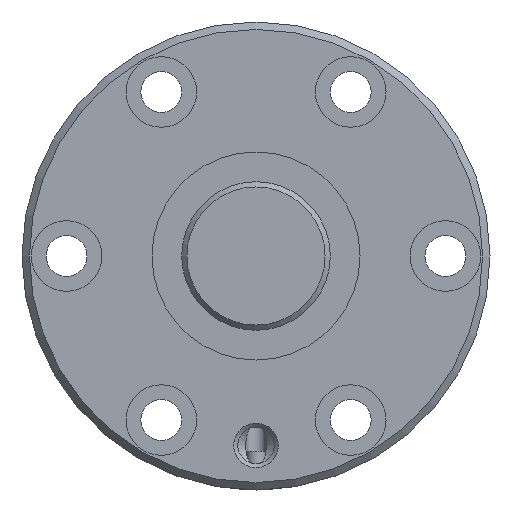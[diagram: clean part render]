
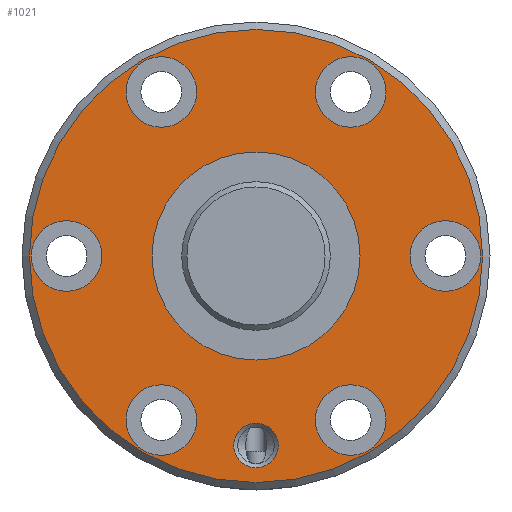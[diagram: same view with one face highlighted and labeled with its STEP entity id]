
A CAD part, left-side view. The second image highlights one B-rep face of the part: STEP entity #1021.
In plain terms, the highlighted planar face has unit normal (-1, 0, 0).
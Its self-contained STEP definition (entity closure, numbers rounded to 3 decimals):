
#162=ORIENTED_EDGE('',*,*,#385,.T.);
#163=ORIENTED_EDGE('',*,*,#386,.T.);
#164=ORIENTED_EDGE('',*,*,#387,.T.);
#165=ORIENTED_EDGE('',*,*,#388,.T.);
#166=ORIENTED_EDGE('',*,*,#389,.T.);
#167=ORIENTED_EDGE('',*,*,#390,.T.);
#168=ORIENTED_EDGE('',*,*,#391,.T.);
#169=ORIENTED_EDGE('',*,*,#392,.T.);
#170=ORIENTED_EDGE('',*,*,#384,.F.);
#384=EDGE_CURVE('',#499,#499,#593,.T.);
#385=EDGE_CURVE('',#500,#500,#594,.T.);
#386=EDGE_CURVE('',#501,#501,#595,.F.);
#387=EDGE_CURVE('',#502,#502,#596,.T.);
#388=EDGE_CURVE('',#503,#503,#597,.T.);
#389=EDGE_CURVE('',#504,#504,#598,.T.);
#390=EDGE_CURVE('',#505,#505,#599,.T.);
#391=EDGE_CURVE('',#506,#506,#600,.T.);
#392=EDGE_CURVE('',#507,#507,#601,.T.);
#499=VERTEX_POINT('',#1708);
#500=VERTEX_POINT('',#1711);
#501=VERTEX_POINT('',#1713);
#502=VERTEX_POINT('',#1715);
#503=VERTEX_POINT('',#1717);
#504=VERTEX_POINT('',#1719);
#505=VERTEX_POINT('',#1721);
#506=VERTEX_POINT('',#1723);
#507=VERTEX_POINT('',#1725);
#593=CIRCLE('',#1136,30.5);
#594=CIRCLE('',#1138,14.);
#595=CIRCLE('',#1139,4.75);
#596=CIRCLE('',#1140,3.);
#597=CIRCLE('',#1141,4.75);
#598=CIRCLE('',#1142,4.75);
#599=CIRCLE('',#1143,4.75);
#600=CIRCLE('',#1144,4.75);
#601=CIRCLE('',#1145,4.75);
#682=EDGE_LOOP('',(#162));
#683=EDGE_LOOP('',(#163));
#684=EDGE_LOOP('',(#164));
#685=EDGE_LOOP('',(#165));
#686=EDGE_LOOP('',(#166));
#687=EDGE_LOOP('',(#167));
#688=EDGE_LOOP('',(#168));
#689=EDGE_LOOP('',(#169));
#690=EDGE_LOOP('',(#170));
#842=FACE_BOUND('',#682,.T.);
#843=FACE_BOUND('',#683,.T.);
#844=FACE_BOUND('',#684,.T.);
#845=FACE_BOUND('',#685,.T.);
#846=FACE_BOUND('',#686,.T.);
#847=FACE_BOUND('',#687,.T.);
#848=FACE_BOUND('',#688,.T.);
#849=FACE_BOUND('',#689,.T.);
#850=FACE_BOUND('',#690,.T.);
#984=PLANE('',#1137);
#1021=ADVANCED_FACE('',(#842,#843,#844,#845,#846,#847,#848,#849,#850),#984,
 .T.);
#1136=AXIS2_PLACEMENT_3D('',#1707,#1322,#1323);
#1137=AXIS2_PLACEMENT_3D('',#1709,#1324,#1325);
#1138=AXIS2_PLACEMENT_3D('',#1710,#1326,#1327);
#1139=AXIS2_PLACEMENT_3D('',#1712,#1328,#1329);
#1140=AXIS2_PLACEMENT_3D('',#1714,#1330,#1331);
#1141=AXIS2_PLACEMENT_3D('',#1716,#1332,#1333);
#1142=AXIS2_PLACEMENT_3D('',#1718,#1334,#1335);
#1143=AXIS2_PLACEMENT_3D('',#1720,#1336,#1337);
#1144=AXIS2_PLACEMENT_3D('',#1722,#1338,#1339);
#1145=AXIS2_PLACEMENT_3D('',#1724,#1340,#1341);
#1322=DIRECTION('',(1.,0.,0.));
#1323=DIRECTION('',(0.,0.,-1.));
#1324=DIRECTION('',(-1.,0.,0.));
#1325=DIRECTION('',(0.,0.,1.));
#1326=DIRECTION('',(1.,0.,0.));
#1327=DIRECTION('',(0.,0.,-1.));
#1328=DIRECTION('',(-1.,0.,0.));
#1329=DIRECTION('',(0.,0.,1.));
#1330=DIRECTION('',(1.,0.,0.));
#1331=DIRECTION('',(0.,0.,-1.));
#1332=DIRECTION('',(1.,0.,0.));
#1333=DIRECTION('',(0.,0.,-1.));
#1334=DIRECTION('',(1.,0.,0.));
#1335=DIRECTION('',(0.,0.,-1.));
#1336=DIRECTION('',(1.,0.,0.));
#1337=DIRECTION('',(0.,0.,-1.));
#1338=DIRECTION('',(1.,0.,0.));
#1339=DIRECTION('',(0.,0.,-1.));
#1340=DIRECTION('',(1.,0.,0.));
#1341=DIRECTION('',(0.,0.,-1.));
#1707=CARTESIAN_POINT('',(0.,0.,0.));
#1708=CARTESIAN_POINT('',(0.,0.,-30.5));
#1709=CARTESIAN_POINT('',(0.,30.5,0.));
#1710=CARTESIAN_POINT('',(0.,0.,0.));
#1711=CARTESIAN_POINT('',(0.,0.,-14.));
#1712=CARTESIAN_POINT('',(0.,25.5,0.));
#1713=CARTESIAN_POINT('',(0.,25.5,4.75));
#1714=CARTESIAN_POINT('',(0.,0.,-25.5));
#1715=CARTESIAN_POINT('',(0.,0.,-28.5));
#1716=CARTESIAN_POINT('',(0.,-25.5,0.));
#1717=CARTESIAN_POINT('',(0.,-25.5,-4.75));
#1718=CARTESIAN_POINT('',(0.,12.75,22.084));
#1719=CARTESIAN_POINT('',(0.,12.75,17.334));
#1720=CARTESIAN_POINT('',(0.,-12.75,-22.084));
#1721=CARTESIAN_POINT('',(0.,-12.75,-26.834));
#1722=CARTESIAN_POINT('',(0.,-12.75,22.084));
#1723=CARTESIAN_POINT('',(0.,-12.75,17.334));
#1724=CARTESIAN_POINT('',(0.,12.75,-22.084));
#1725=CARTESIAN_POINT('',(0.,12.75,-26.834));
